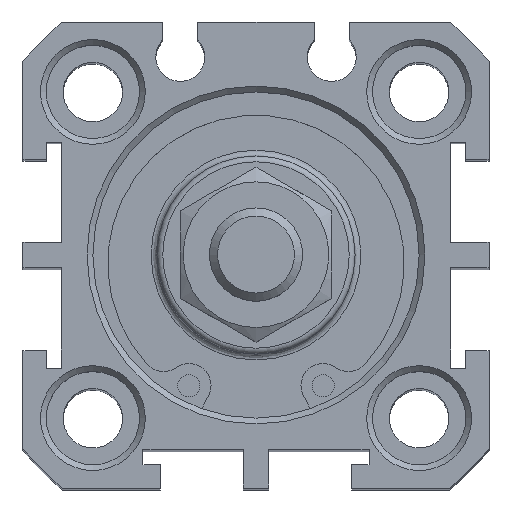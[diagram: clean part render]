
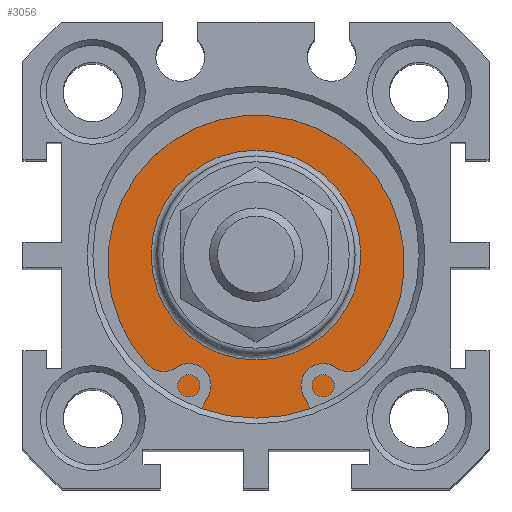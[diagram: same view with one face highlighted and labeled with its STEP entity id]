
A CAD part, top view. The second image highlights one B-rep face of the part: STEP entity #3056.
In plain terms, the highlighted planar face has unit normal (0, 0, 1).
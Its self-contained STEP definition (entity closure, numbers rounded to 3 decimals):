
#3005=CARTESIAN_POINT('',(0.12,10.914,93.3));
#3006=VERTEX_POINT('',#3005);
#3007=CARTESIAN_POINT('',(0.12,1.914,93.3));
#3008=DIRECTION('',(0.0,0.0,1.0));
#3009=DIRECTION('',(0.0,-1.0,0.0));
#3010=AXIS2_PLACEMENT_3D('',#3007,#3008,#3009);
#3011=CIRCLE('',#3010,9.);
#3012=EDGE_CURVE('',#3006,#3006,#3011,.T.);
#3037=CARTESIAN_POINT('',(0.12,13.164,93.3));
#3038=DIRECTION('',(0.0,0.0,1.0));
#3039=DIRECTION('',(1.0,0.0,0.0));
#3040=AXIS2_PLACEMENT_3D('',#3037,#3038,#3039);
#3041=PLANE('',#3040);
#3042=CARTESIAN_POINT('',(0.12,15.914,93.3));
#3043=VERTEX_POINT('',#3042);
#3044=CARTESIAN_POINT('',(0.12,1.914,93.3));
#3045=DIRECTION('',(0.0,0.0,-1.0));
#3046=DIRECTION('',(0.0,1.0,0.0));
#3047=AXIS2_PLACEMENT_3D('',#3044,#3045,#3046);
#3048=CIRCLE('',#3047,14.);
#3049=EDGE_CURVE('',#3043,#3043,#3048,.T.);
#3050=ORIENTED_EDGE('',*,*,#3049,.F.);
#3051=EDGE_LOOP('',(#3050));
#3052=FACE_OUTER_BOUND('',#3051,.T.);
#3053=ORIENTED_EDGE('',*,*,#3012,.F.);
#3054=EDGE_LOOP('',(#3053));
#3055=FACE_BOUND('',#3054,.T.);
#3056=ADVANCED_FACE('',(#3052,#3055),#3041,.T.);
